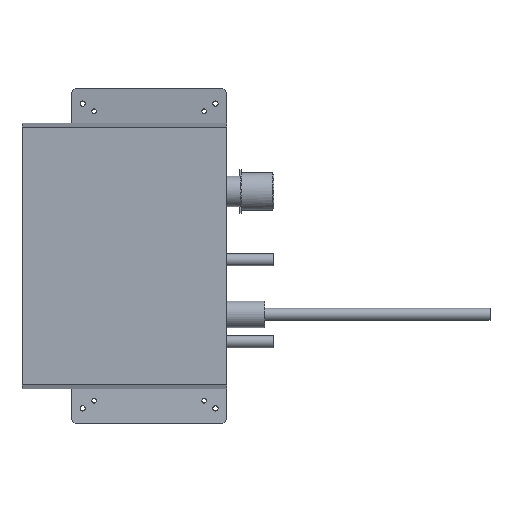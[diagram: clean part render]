
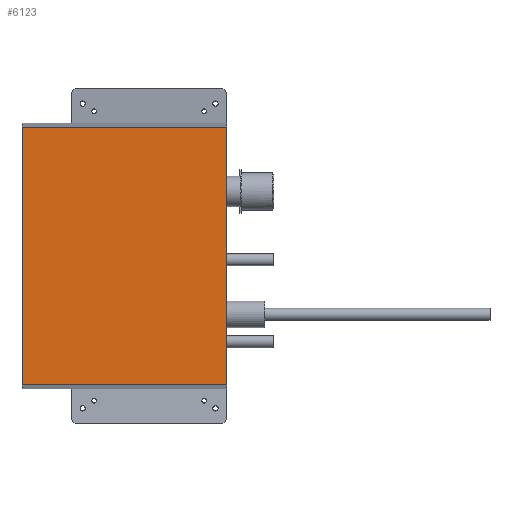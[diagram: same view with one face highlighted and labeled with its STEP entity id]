
A CAD part, left-side view. The second image highlights one B-rep face of the part: STEP entity #6123.
In plain terms, the highlighted planar face has unit normal (-1, 0, 0).
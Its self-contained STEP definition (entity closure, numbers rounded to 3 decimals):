
#351=LINE('',#9728,#941);
#380=LINE('',#9799,#970);
#381=LINE('',#9803,#971);
#384=LINE('',#9808,#974);
#941=VECTOR('',#7605,10.);
#970=VECTOR('',#7672,10.);
#971=VECTOR('',#7677,10.);
#974=VECTOR('',#7682,10.);
#1440=PLANE('',#6756);
#1862=FACE_OUTER_BOUND('',#2270,.T.);
#2270=EDGE_LOOP('',(#4727,#4728,#4729,#4730));
#2989=VERTEX_POINT('',#9725);
#2990=VERTEX_POINT('',#9727);
#3013=VERTEX_POINT('',#9797);
#3014=VERTEX_POINT('',#9802);
#3614=EDGE_CURVE('',#2990,#2989,#351,.T.);
#3647=EDGE_CURVE('',#2989,#3013,#380,.T.);
#3648=EDGE_CURVE('',#3014,#2990,#381,.T.);
#3651=EDGE_CURVE('',#3013,#3014,#384,.T.);
#4727=ORIENTED_EDGE('',*,*,#3647,.T.);
#4728=ORIENTED_EDGE('',*,*,#3651,.T.);
#4729=ORIENTED_EDGE('',*,*,#3648,.T.);
#4730=ORIENTED_EDGE('',*,*,#3614,.T.);
#6123=ADVANCED_FACE('',(#1862),#1440,.F.);
#6756=AXIS2_PLACEMENT_3D('',#9807,#7680,#7681);
#7605=DIRECTION('',(0.,0.,1.));
#7672=DIRECTION('',(0.,1.,0.));
#7677=DIRECTION('',(0.,-1.,0.));
#7680=DIRECTION('center_axis',(1.,0.,0.));
#7681=DIRECTION('ref_axis',(0.,0.,-1.));
#7682=DIRECTION('',(0.,0.,-1.));
#9725=CARTESIAN_POINT('',(0.,0.,-5.));
#9727=CARTESIAN_POINT('',(0.,0.,-345.));
#9728=CARTESIAN_POINT('',(0.,0.,-350.));
#9797=CARTESIAN_POINT('',(0.,270.,-5.));
#9799=CARTESIAN_POINT('',(0.,202.5,-5.));
#9802=CARTESIAN_POINT('',(0.,270.,-345.));
#9803=CARTESIAN_POINT('',(0.,202.5,-345.));
#9807=CARTESIAN_POINT('Origin',(0.,135.,-175.));
#9808=CARTESIAN_POINT('',(0.,270.,0.));
